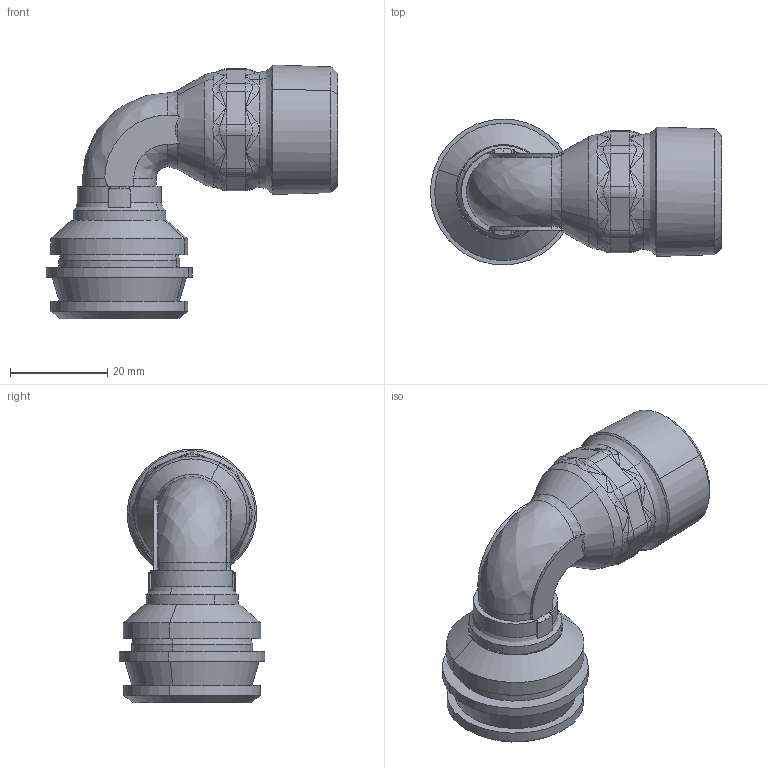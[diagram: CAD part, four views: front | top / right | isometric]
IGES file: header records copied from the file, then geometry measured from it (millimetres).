
Start section: 3D InterOp IGES (Version 26 1 0), Spatial Corp. Copyright (c) 1999-2007.
Global section: file name: pim0004761.igs; native system: Spatial Corp.; preprocessor: 3D InterOp ACIS/IGES; author: cad-pim; organization: TransMagic, Inc.; date: 20170201.164851; units: millimetre
Bounding box: 60.04 x 30.07 x 52.34 mm (x, y, z)
Volume: 28349.5 mm3; surface area: 9609.1 mm2
Topology: 1 solids, 1 shells, 225 faces, 540 edges, 294 vertices
Faces by surface type: bspline 225
